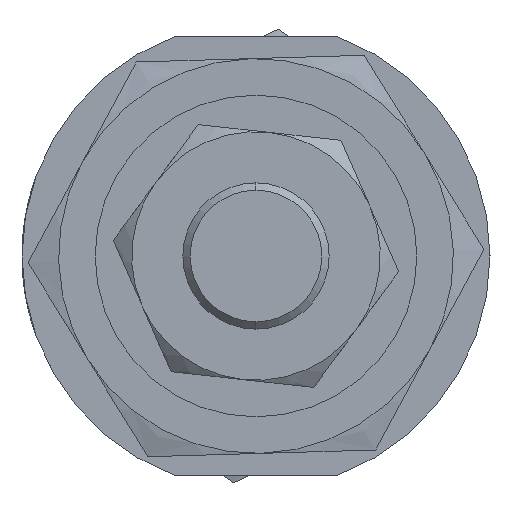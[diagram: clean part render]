
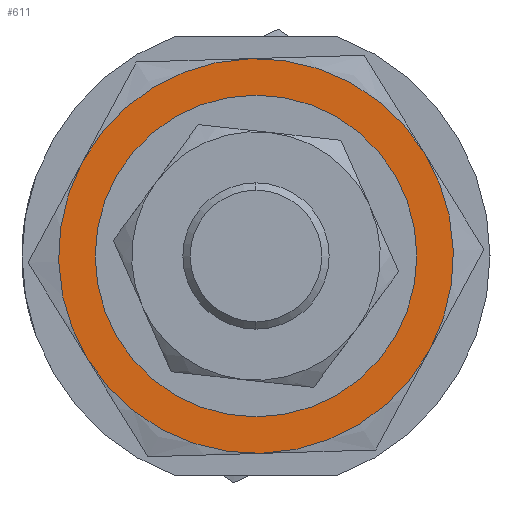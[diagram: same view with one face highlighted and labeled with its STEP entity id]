
A CAD part, left-side view. The second image highlights one B-rep face of the part: STEP entity #611.
In plain terms, the highlighted planar face has unit normal (-1, 0, 0) as drawn and (0, 0, -1) by its records, which use the part's own axes.
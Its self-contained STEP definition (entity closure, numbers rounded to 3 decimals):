
#8 = CIRCLE ( 'NONE', #956, 13.5 ) ;
#36 = EDGE_CURVE ( 'NONE', #496, #901, #479, .T. ) ;
#176 = CARTESIAN_POINT ( 'NONE',  ( 0., 0., -5. ) ) ;
#250 = VERTEX_POINT ( 'NONE', #1504 ) ;
#300 = CARTESIAN_POINT ( 'NONE',  ( 0., 0., -5. ) ) ;
#436 = DIRECTION ( 'NONE',  ( 1., 0., 0. ) ) ;
#465 = VERTEX_POINT ( 'NONE', #1058 ) ;
#479 = CIRCLE ( 'NONE', #641, 13.5 ) ;
#486 = DIRECTION ( 'NONE',  ( 0., 0., 1. ) ) ;
#496 = VERTEX_POINT ( 'NONE', #1842 ) ;
#513 = CARTESIAN_POINT ( 'NONE',  ( 6.75, 11.691, -5. ) ) ;
#539 = EDGE_LOOP ( 'NONE', ( #2210, #2842, #2559, #3386, #1861, #2320 ) ) ;
#563 = DIRECTION ( 'NONE',  ( 0., 0., 1. ) ) ;
#611 = ADVANCED_FACE ( 'NONE', ( #3072, #2889 ), #2642, .F. ) ;
#641 = AXIS2_PLACEMENT_3D ( 'NONE', #2416, #941, #2188 ) ;
#685 = VERTEX_POINT ( 'NONE', #1193 ) ;
#720 = CIRCLE ( 'NONE', #2159, 13.5 ) ;
#772 = CARTESIAN_POINT ( 'NONE',  ( 0., 0., -5. ) ) ;
#849 = DIRECTION ( 'NONE',  ( 1., 0., 0. ) ) ;
#901 = VERTEX_POINT ( 'NONE', #1809 ) ;
#907 = EDGE_LOOP ( 'NONE', ( #1257, #2802 ) ) ;
#941 = DIRECTION ( 'NONE',  ( 0., 0., 1. ) ) ;
#956 = AXIS2_PLACEMENT_3D ( 'NONE', #1092, #2692, #849 ) ;
#961 = EDGE_CURVE ( 'NONE', #2384, #250, #720, .T. ) ;
#984 = DIRECTION ( 'NONE',  ( 0., 0., 1. ) ) ;
#1058 = CARTESIAN_POINT ( 'NONE',  ( 10.25, 0., -5. ) ) ;
#1092 = CARTESIAN_POINT ( 'NONE',  ( 0., 0., -5. ) ) ;
#1106 = CARTESIAN_POINT ( 'NONE',  ( 0., 0., -5. ) ) ;
#1142 = AXIS2_PLACEMENT_3D ( 'NONE', #176, #1501, #2377 ) ;
#1152 = CIRCLE ( 'NONE', #3226, 13.5 ) ;
#1183 = DIRECTION ( 'NONE',  ( 0., 0., 1. ) ) ;
#1193 = CARTESIAN_POINT ( 'NONE',  ( -6.75, 11.691, -5. ) ) ;
#1257 = ORIENTED_EDGE ( 'NONE', *, *, #2836, .T. ) ;
#1386 = CARTESIAN_POINT ( 'NONE',  ( 6.75, -11.691, -5. ) ) ;
#1395 = DIRECTION ( 'NONE',  ( 1., 0., 0. ) ) ;
#1431 = CIRCLE ( 'NONE', #3335, 13.5 ) ;
#1455 = CARTESIAN_POINT ( 'NONE',  ( 0., 0., -5. ) ) ;
#1501 = DIRECTION ( 'NONE',  ( 0., 0., 1. ) ) ;
#1504 = CARTESIAN_POINT ( 'NONE',  ( 13.5, 0., -5. ) ) ;
#1619 = VERTEX_POINT ( 'NONE', #513 ) ;
#1733 = DIRECTION ( 'NONE',  ( 0., 0., 1. ) ) ;
#1809 = CARTESIAN_POINT ( 'NONE',  ( -6.75, -11.691, -5. ) ) ;
#1842 = CARTESIAN_POINT ( 'NONE',  ( -13.5, 0., -5. ) ) ;
#1849 = AXIS2_PLACEMENT_3D ( 'NONE', #2085, #486, #3030 ) ;
#1850 = EDGE_CURVE ( 'NONE', #2011, #465, #3140, .T. ) ;
#1861 = ORIENTED_EDGE ( 'NONE', *, *, #1961, .F. ) ;
#1961 = EDGE_CURVE ( 'NONE', #685, #496, #1431, .T. ) ;
#2011 = VERTEX_POINT ( 'NONE', #2564 ) ;
#2085 = CARTESIAN_POINT ( 'NONE',  ( 0., 0., -5. ) ) ;
#2159 = AXIS2_PLACEMENT_3D ( 'NONE', #1106, #2519, #436 ) ;
#2188 = DIRECTION ( 'NONE',  ( 1., 0., 0. ) ) ;
#2201 = DIRECTION ( 'NONE',  ( 1., 0., 0. ) ) ;
#2210 = ORIENTED_EDGE ( 'NONE', *, *, #3392, .F. ) ;
#2292 = EDGE_CURVE ( 'NONE', #1619, #685, #8, .T. ) ;
#2320 = ORIENTED_EDGE ( 'NONE', *, *, #2292, .F. ) ;
#2377 = DIRECTION ( 'NONE',  ( 1., 0., 0. ) ) ;
#2384 = VERTEX_POINT ( 'NONE', #1386 ) ;
#2416 = CARTESIAN_POINT ( 'NONE',  ( 0., 0., -5. ) ) ;
#2473 = EDGE_CURVE ( 'NONE', #901, #2384, #2839, .T. ) ;
#2489 = CIRCLE ( 'NONE', #1849, 10.25 ) ;
#2519 = DIRECTION ( 'NONE',  ( 0., 0., 1. ) ) ;
#2559 = ORIENTED_EDGE ( 'NONE', *, *, #2473, .F. ) ;
#2564 = CARTESIAN_POINT ( 'NONE',  ( -10.25, 0., -5. ) ) ;
#2642 = PLANE ( 'NONE',  #3296 ) ;
#2692 = DIRECTION ( 'NONE',  ( 0., 0., 1. ) ) ;
#2802 = ORIENTED_EDGE ( 'NONE', *, *, #1850, .T. ) ;
#2836 = EDGE_CURVE ( 'NONE', #465, #2011, #2489, .T. ) ;
#2839 = CIRCLE ( 'NONE', #3519, 13.5 ) ;
#2842 = ORIENTED_EDGE ( 'NONE', *, *, #961, .F. ) ;
#2856 = DIRECTION ( 'NONE',  ( 1., 0., 0. ) ) ;
#2889 = FACE_OUTER_BOUND ( 'NONE', #539, .T. ) ;
#3030 = DIRECTION ( 'NONE',  ( 1., 0., 0. ) ) ;
#3072 = FACE_BOUND ( 'NONE', #907, .T. ) ;
#3107 = DIRECTION ( 'NONE',  ( 1., 0., 0. ) ) ;
#3140 = CIRCLE ( 'NONE', #1142, 10.25 ) ;
#3226 = AXIS2_PLACEMENT_3D ( 'NONE', #1455, #984, #1395 ) ;
#3275 = CARTESIAN_POINT ( 'NONE',  ( 0., 0., -5. ) ) ;
#3296 = AXIS2_PLACEMENT_3D ( 'NONE', #3275, #563, #3107 ) ;
#3335 = AXIS2_PLACEMENT_3D ( 'NONE', #772, #1733, #2856 ) ;
#3386 = ORIENTED_EDGE ( 'NONE', *, *, #36, .F. ) ;
#3392 = EDGE_CURVE ( 'NONE', #250, #1619, #1152, .T. ) ;
#3519 = AXIS2_PLACEMENT_3D ( 'NONE', #300, #1183, #2201 ) ;
